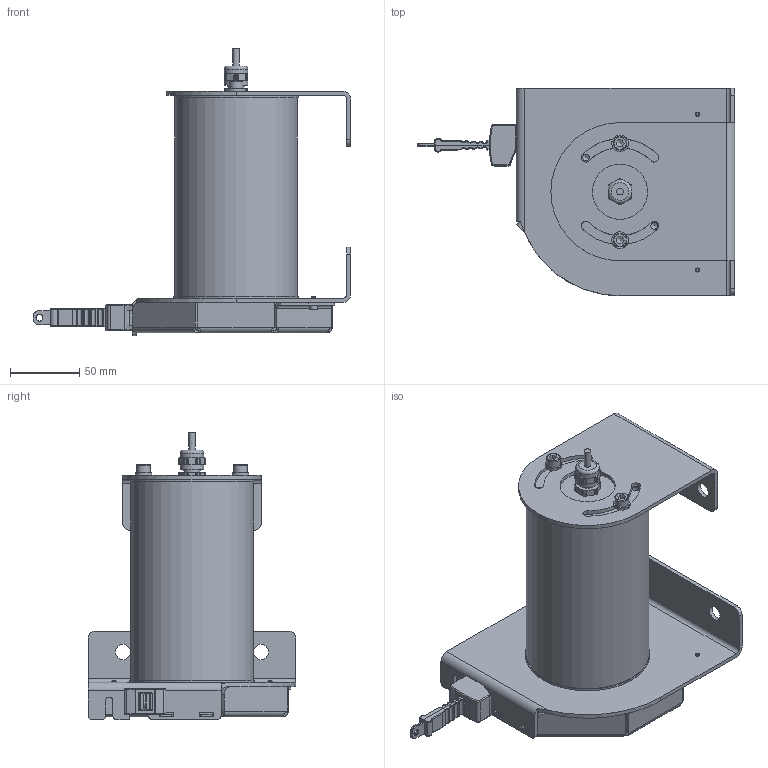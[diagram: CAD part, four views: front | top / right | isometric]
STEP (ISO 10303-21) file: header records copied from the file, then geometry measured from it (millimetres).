
FILE_DESCRIPTION((''),'2;1');
FILE_NAME('C:\Dokumente und Einstellungen\Waneck\Eigene Dateien\Waneck\Zeichnungen\WB-Sensoren Step\WB100M 2000-(I-U-MSSI-CAN)-KAB-BAB.stp','2010-10-27T16:27:14',('waneck'),(''),'Autodesk Inventor 2008','Autodesk Inventor 2008','');
FILE_SCHEMA(('AUTOMOTIVE_DESIGN { 1 0 10303 214 1 1 1 1 }'));
Length unit declared in the file: millimetre
Products named in the file (1): Bauteil23
Bounding box: 229.7 x 150 x 207.9 mm (x, y, z)
Volume: 1441021.3 mm3; surface area: 143509.8 mm2
Topology: 1 solids, 1 shells, 599 faces, 1597 edges, 983 vertices
Faces by surface type: plane 230, cylinder 221, bspline 83, sphere 36, cone 18, torus 11
Full cylindrical faces by diameter (mm): 3 x2, 4.7 x1, 5.5 x2, 6 x2, 6.4 x2, 10 x2, 12 x3, 17 x2, 88.9 x1, 90 x2
Entity records: 22486 total; most frequent: CARTESIAN_POINT 7813, ORIENTED_EDGE 3028, DIRECTION 2896, EDGE_CURVE 1514, AXIS2_PLACEMENT_3D 1079, VERTEX_POINT 961, VECTOR 738, LINE 738
